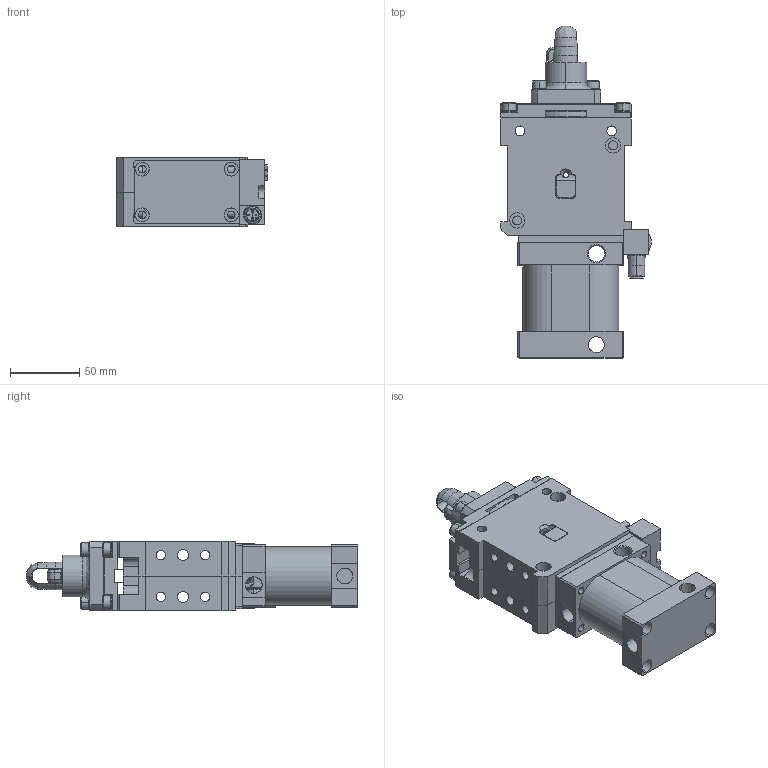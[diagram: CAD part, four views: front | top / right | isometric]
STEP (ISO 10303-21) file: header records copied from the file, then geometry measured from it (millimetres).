
FILE_DESCRIPTION (( 'STEP AP203' ), '1' );
FILE_NAME ('dca50ri_09289std.STEP', '2019-03-25T12:20:32', ( '' ), ( '' ), 'SwSTEP 2.0', 'SolidWorks 2018', '' );
FILE_SCHEMA (( 'CONFIG_CONTROL_DESIGN' ));
Length unit declared in the file: millimetre
Products named in the file (1): dca50ri_09289std
Bounding box: 108.59 x 238.9 x 50 mm (x, y, z)
Surface area: 100287.7 mm2 (no closed solid volume)
Topology: 0 solids, 35 shells, 592 faces, 1829 edges, 1254 vertices
Faces by surface type: plane 278, cylinder 176, cone 93, bspline 45
Entity records: 28693 total; most frequent: CARTESIAN_POINT 12944, ORIENTED_EDGE 3133, DIRECTION 3068, EDGE_CURVE 1809, VERTEX_POINT 1254, AXIS2_PLACEMENT_3D 1045, LINE 978, VECTOR 978
